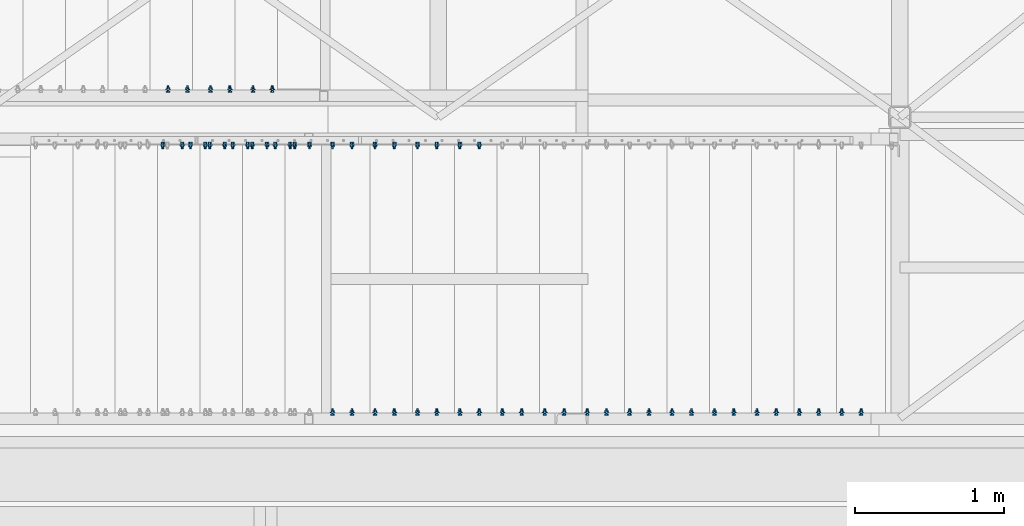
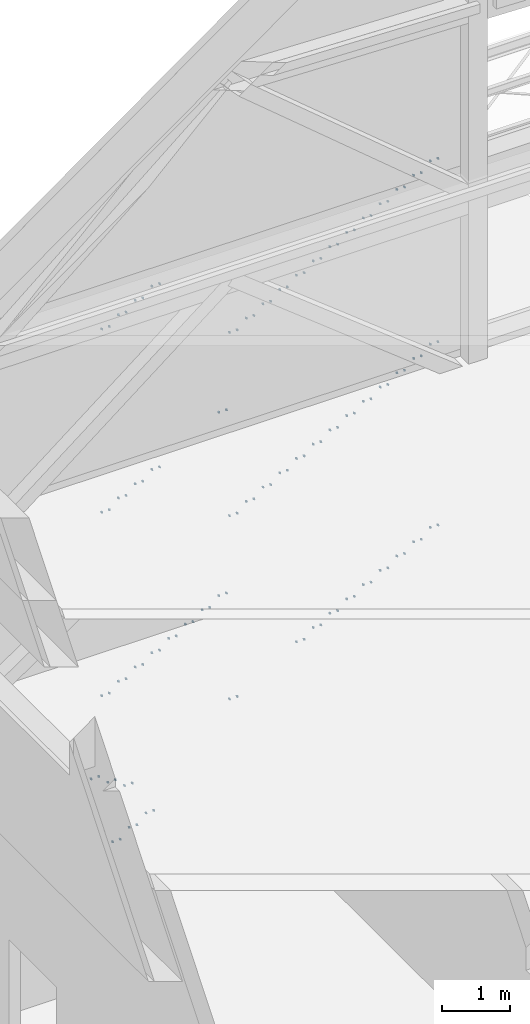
# One storey, part 75 of 78: 59 mechanical fasteners, 8 elements without a shape of their own.
"""IFC2X3 building model written with IfcOpenShell, lengths in millimetres."""

from ifc_helpers import new_model, si_unit, frame, origin_with_axes, origin_2d_with_axis, place, context, subcontext, project, spatial, polyline, circle, outline, extrude, source, transform, mapped, material, type_object, element, aggregate, save


model = new_model("IFC2X3")

# Units and contexts
model_context = context("Model", 3, precision=1e-05, world=origin_with_axes())
body_context = subcontext(model_context, "Body", "Model", "MODEL_VIEW")
ifc_project = project(units=[si_unit("LENGTHUNIT", "METRE", prefix="MILLI"), si_unit("AREAUNIT", "SQUARE_METRE"), si_unit("VOLUMEUNIT", "CUBIC_METRE"), si_unit("MASSUNIT", "GRAM", prefix="KILO"), si_unit("TIMEUNIT", "SECOND"), si_unit("PLANEANGLEUNIT", "RADIAN"), si_unit("SOLIDANGLEUNIT", "STERADIAN"), si_unit("THERMODYNAMICTEMPERATUREUNIT", "DEGREE_CELSIUS"), si_unit("LUMINOUSINTENSITYUNIT", "LUMEN")], contexts=[model_context])

# Site, building, storey
site_placement = place(None, origin_with_axes())
site = spatial("IfcSite", under=ifc_project, at=site_placement, Name="Site", CompositionType="ELEMENT")
building_placement = place(site_placement, origin_with_axes())
building = spatial("IfcBuilding", under=site, at=building_placement, Name="Undefined", CompositionType="ELEMENT")
storey_placement = place(building_placement, origin_with_axes())
storey = spatial("IfcBuildingStorey", under=building, at=storey_placement, Name="Undefined", CompositionType="ELEMENT", Elevation=0.0)

# Assembly, mechanical fasteners
assembly_1_placement = place(storey_placement, origin_with_axes())
assembly_1 = element("IfcElementAssembly", 1, at=assembly_1_placement, inside=storey, AssemblyPlace="NOTDEFINED", PredefinedType="RIGID_FRAME")
ifc_material = material(Name="6.8")
mechanical_fastener_type = type_object("IfcMechanicalFastenerType", Name="Bolt assembly")
shared_shape_1 = source(origin_with_axes(), body_context, "Body", "SweptSolid", [
    extrude(circle(Radius=6.0, at=origin_2d_with_axis()), frame((0.0, -9.00000002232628, 0.0), z_axis=(0.0, 1.0, 0.0), x_axis=(1.0, 0.0, 0.0)), (0.0, 0.0, 1.0), 9.1),
    extrude(outline(polyline([(10.96965511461, 0.0), (5.484827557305, 9.50000000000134), (-5.484827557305, 9.50000000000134), (-10.96965511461, 0.0), (-5.484827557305, -9.50000000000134), (5.484827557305, -9.50000000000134), (10.96965511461, 0.0)])), frame((0.0, -17.0000000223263, 0.0), z_axis=(0.0, 1.0, 0.0), x_axis=(1.0, 0.0, 0.0)), (0.0, 0.0, 1.0), 8.0),
    extrude(circle(Radius=6.0, at=origin_2d_with_axis()), frame((0.0, -9.00000002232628, 0.0), z_axis=(0.0, 1.0, 0.0), x_axis=(1.0, 0.0, 0.0)), (0.0, 0.0, 1.0), 35.0),
    extrude(circle(Radius=15.5, at=origin_2d_with_axis()), frame((0.0, 0.0, 0.0), z_axis=(0.0, 1.0, 0.0), x_axis=(1.0, 0.0, 0.0)), (0.0, 0.0, 1.0), 3.2),
    extrude(outline(polyline([(10.39230484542, 0.0), (5.19615242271, 9.00000000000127), (-5.19615242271, 9.00000000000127), (-10.39230484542, 0.0), (-5.19615242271, -9.00000000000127), (5.19615242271, -9.00000000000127), (10.39230484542, 0.0)])), frame((0.0, 3.20000004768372, 0.0), z_axis=(0.0, 1.0, 0.0), x_axis=(1.0, 0.0, 0.0)), (0.0, 0.0, 1.0), 10.8),
])
mechanical_fastener_1_placement = place(assembly_1_placement, frame((-2696.42999989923, 30562.9999999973, 148290.540000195), z_axis=(0.0, 0.0, -1.0), x_axis=(1.0, 0.0, 0.0)))
mechanical_fastener_1 = element("IfcMechanicalFastener", 2, at=mechanical_fastener_1_placement, type_object=mechanical_fastener_type, material=ifc_material, Name="Bolt assembly", NominalDiameter=12.0, NominalLength=35.0, context=body_context, shape_type="MappedRepresentation", body=[
    mapped(shared_shape_1, transform((0.0, 0.0, 0.0))),
    mapped(shared_shape_1, transform((130.0, 0.0, 0.0))),
])
mechanical_fastener_2_placement = place(assembly_1_placement, frame((-2981.42999990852, 30562.9999999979, 148131.040000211), z_axis=(0.0, 0.0, -1.0), x_axis=(1.0, 0.0, 0.0)))
mechanical_fastener_2 = element("IfcMechanicalFastener", 3, at=mechanical_fastener_2_placement, type_object=mechanical_fastener_type, material=ifc_material, Name="Bolt assembly", NominalDiameter=12.0, NominalLength=35.0, context=body_context, shape_type="MappedRepresentation", body=[
    mapped(shared_shape_1, transform((0.0, 0.0, 0.0))),
    mapped(shared_shape_1, transform((130.0, 0.0, 0.0))),
])
shared_shape_2 = source(origin_with_axes(), body_context, "Body", "SweptSolid", [
    extrude(circle(Radius=6.0, at=origin_2d_with_axis()), frame((0.0, -9.00000002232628, 0.0), z_axis=(0.0, 1.0, 0.0), x_axis=(1.0, 0.0, 0.0)), (0.0, 0.0, 1.0), 9.1),
    extrude(outline(polyline([(10.96965511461, 0.0), (5.484827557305, 9.50000000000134), (-5.484827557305, 9.50000000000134), (-10.96965511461, 0.0), (-5.484827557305, -9.50000000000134), (5.484827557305, -9.50000000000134), (10.96965511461, 0.0)])), frame((0.0, -17.0000000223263, 0.0), z_axis=(0.0, 1.0, 0.0), x_axis=(1.0, 0.0, 0.0)), (0.0, 0.0, 1.0), 8.0),
    extrude(circle(Radius=6.0, at=origin_2d_with_axis()), frame((0.0, -9.00000002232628, 0.0), z_axis=(0.0, 1.0, 0.0), x_axis=(1.0, 0.0, 0.0)), (0.0, 0.0, 1.0), 35.0),
    extrude(circle(Radius=15.5, at=origin_2d_with_axis()), frame((0.0, 0.0, 0.0), z_axis=(0.0, 1.0, 0.0), x_axis=(1.0, 0.0, 0.0)), (0.0, 0.0, 1.0), 3.2),
    extrude(outline(polyline([(10.39230484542, 0.0), (5.19615242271, 9.00000000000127), (-5.19615242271, 9.00000000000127), (-10.39230484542, 0.0), (-5.19615242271, -9.00000000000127), (5.19615242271, -9.00000000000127), (10.39230484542, 0.0)])), frame((0.0, 3.20000004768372, 0.0), z_axis=(0.0, 1.0, 0.0), x_axis=(1.0, 0.0, 0.0)), (0.0, 0.0, 1.0), 10.8),
])
mechanical_fastener_3_placement = place(assembly_1_placement, frame((-3266.4299999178, 30562.9999999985, 147971.540000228), z_axis=(0.0, 0.0, -1.0), x_axis=(1.0, 0.0, 0.0)))
mechanical_fastener_3 = element("IfcMechanicalFastener", 4, at=mechanical_fastener_3_placement, type_object=mechanical_fastener_type, material=ifc_material, Name="Bolt assembly", NominalDiameter=12.0, NominalLength=35.0, context=body_context, shape_type="MappedRepresentation", body=[
    mapped(shared_shape_2, transform((0.0, 0.0, 0.0))),
    mapped(shared_shape_2, transform((130.0, 0.0, 0.0))),
])
aggregate(assembly_1, [mechanical_fastener_1, mechanical_fastener_2, mechanical_fastener_3])

assembly_2_placement = place(storey_placement, origin_with_axes())
assembly_2 = element("IfcElementAssembly", 5, at=assembly_2_placement, inside=storey, AssemblyPlace="NOTDEFINED", PredefinedType="RIGID_FRAME")
mechanical_fastener_4_placement = place(assembly_2_placement, frame((1108.57000005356, 28763.0000000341, 153187.539999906), z_axis=(0.0, 0.0, 1.0), x_axis=(1.0, 0.0, 0.0)))
mechanical_fastener_4 = element("IfcMechanicalFastener", 6, at=mechanical_fastener_4_placement, type_object=mechanical_fastener_type, material=ifc_material, Name="Bolt assembly", NominalDiameter=12.0, NominalLength=35.0, context=body_context, shape_type="MappedRepresentation", body=[
    mapped(shared_shape_2, transform((0.0, 0.0, 0.0))),
    mapped(shared_shape_2, transform((130.0, 0.0, 0.0))),
])
mechanical_fastener_5_placement = place(assembly_2_placement, frame((823.570000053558, 28763.0000000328, 153030.039999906), z_axis=(0.0, 0.0, 1.0), x_axis=(1.0, 0.0, 0.0)))
mechanical_fastener_5 = element("IfcMechanicalFastener", 7, at=mechanical_fastener_5_placement, type_object=mechanical_fastener_type, material=ifc_material, Name="Bolt assembly", NominalDiameter=12.0, NominalLength=35.0, context=body_context, shape_type="MappedRepresentation", body=[
    mapped(shared_shape_2, transform((0.0, 0.0, 0.0))),
    mapped(shared_shape_2, transform((130.0, 0.0, 0.0))),
])
mechanical_fastener_6_placement = place(assembly_2_placement, frame((538.570000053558, 28763.0000000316, 152872.539999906), z_axis=(0.0, 0.0, 1.0), x_axis=(1.0, 0.0, 0.0)))
mechanical_fastener_6 = element("IfcMechanicalFastener", 8, at=mechanical_fastener_6_placement, type_object=mechanical_fastener_type, material=ifc_material, Name="Bolt assembly", NominalDiameter=12.0, NominalLength=35.0, context=body_context, shape_type="MappedRepresentation", body=[
    mapped(shared_shape_2, transform((0.0, 0.0, 0.0))),
    mapped(shared_shape_2, transform((130.0, 0.0, 0.0))),
])
mechanical_fastener_7_placement = place(assembly_2_placement, frame((253.570000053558, 28763.0000000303, 152715.039999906), z_axis=(0.0, 0.0, 1.0), x_axis=(1.0, 0.0, 0.0)))
mechanical_fastener_7 = element("IfcMechanicalFastener", 9, at=mechanical_fastener_7_placement, type_object=mechanical_fastener_type, material=ifc_material, Name="Bolt assembly", NominalDiameter=12.0, NominalLength=35.0, context=body_context, shape_type="MappedRepresentation", body=[
    mapped(shared_shape_2, transform((0.0, 0.0, 0.0))),
    mapped(shared_shape_2, transform((130.0, 0.0, 0.0))),
])
mechanical_fastener_8_placement = place(assembly_2_placement, frame((-31.429999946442, 28763.0000000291, 152557.539999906), z_axis=(0.0, 0.0, 1.0), x_axis=(1.0, 0.0, 0.0)))
mechanical_fastener_8 = element("IfcMechanicalFastener", 10, at=mechanical_fastener_8_placement, type_object=mechanical_fastener_type, material=ifc_material, Name="Bolt assembly", NominalDiameter=12.0, NominalLength=35.0, context=body_context, shape_type="MappedRepresentation", body=[
    mapped(shared_shape_2, transform((0.0, 0.0, 0.0))),
    mapped(shared_shape_2, transform((130.0, 0.0, 0.0))),
])
mechanical_fastener_9_placement = place(assembly_2_placement, frame((-316.429999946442, 28763.0000000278, 152400.039999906), z_axis=(0.0, 0.0, 1.0), x_axis=(1.0, 0.0, 0.0)))
mechanical_fastener_9 = element("IfcMechanicalFastener", 11, at=mechanical_fastener_9_placement, type_object=mechanical_fastener_type, material=ifc_material, Name="Bolt assembly", NominalDiameter=12.0, NominalLength=35.0, context=body_context, shape_type="MappedRepresentation", body=[
    mapped(shared_shape_2, transform((0.0, 0.0, 0.0))),
    mapped(shared_shape_2, transform((130.0, 0.0, 0.0))),
])
mechanical_fastener_10_placement = place(assembly_2_placement, frame((-601.429999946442, 28763.0000000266, 152242.539999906), z_axis=(0.0, 0.0, 1.0), x_axis=(1.0, 0.0, 0.0)))
mechanical_fastener_10 = element("IfcMechanicalFastener", 12, at=mechanical_fastener_10_placement, type_object=mechanical_fastener_type, material=ifc_material, Name="Bolt assembly", NominalDiameter=12.0, NominalLength=35.0, context=body_context, shape_type="MappedRepresentation", body=[
    mapped(shared_shape_2, transform((0.0, 0.0, 0.0))),
    mapped(shared_shape_2, transform((130.0, 0.0, 0.0))),
])
mechanical_fastener_11_placement = place(assembly_2_placement, frame((-886.429999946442, 28763.0000000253, 152085.039999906), z_axis=(0.0, 0.0, 1.0), x_axis=(1.0, 0.0, 0.0)))
mechanical_fastener_11 = element("IfcMechanicalFastener", 13, at=mechanical_fastener_11_placement, type_object=mechanical_fastener_type, material=ifc_material, Name="Bolt assembly", NominalDiameter=12.0, NominalLength=35.0, context=body_context, shape_type="MappedRepresentation", body=[
    mapped(shared_shape_2, transform((0.0, 0.0, 0.0))),
    mapped(shared_shape_2, transform((130.0, 0.0, 0.0))),
])
mechanical_fastener_12_placement = place(assembly_2_placement, frame((-1171.42999994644, 28763.0000000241, 151927.539999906), z_axis=(0.0, 0.0, 1.0), x_axis=(1.0, 0.0, 0.0)))
mechanical_fastener_12 = element("IfcMechanicalFastener", 14, at=mechanical_fastener_12_placement, type_object=mechanical_fastener_type, material=ifc_material, Name="Bolt assembly", NominalDiameter=12.0, NominalLength=35.0, context=body_context, shape_type="MappedRepresentation", body=[
    mapped(shared_shape_2, transform((0.0, 0.0, 0.0))),
    mapped(shared_shape_2, transform((130.0, 0.0, 0.0))),
])

assembly_3_placement = place(storey_placement, origin_with_axes())
assembly_3 = element("IfcElementAssembly", 15, at=assembly_3_placement, inside=storey, AssemblyPlace="NOTDEFINED", PredefinedType="RIGID_FRAME")
mechanical_fastener_13_placement = place(assembly_3_placement, frame((-1456.42999993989, 30563.0000000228, 151770.039999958), z_axis=(0.0, 0.0, -1.0), x_axis=(1.0, 0.0, 0.0)))
mechanical_fastener_13 = element("IfcMechanicalFastener", 16, at=mechanical_fastener_13_placement, type_object=mechanical_fastener_type, material=ifc_material, Name="Bolt assembly", NominalDiameter=12.0, NominalLength=35.0, context=body_context, shape_type="MappedRepresentation", body=[
    mapped(shared_shape_2, transform((0.0, 0.0, 0.0))),
    mapped(shared_shape_2, transform((130.0, 0.0, 0.0))),
])
mechanical_fastener_14_placement = place(assembly_3_placement, frame((-1741.42999993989, 30563.0000000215, 151612.539999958), z_axis=(0.0, 0.0, -1.0), x_axis=(1.0, 0.0, 0.0)))
mechanical_fastener_14 = element("IfcMechanicalFastener", 17, at=mechanical_fastener_14_placement, type_object=mechanical_fastener_type, material=ifc_material, Name="Bolt assembly", NominalDiameter=12.0, NominalLength=35.0, context=body_context, shape_type="MappedRepresentation", body=[
    mapped(shared_shape_2, transform((0.0, 0.0, 0.0))),
    mapped(shared_shape_2, transform((130.0, 0.0, 0.0))),
])
mechanical_fastener_15_placement = place(assembly_3_placement, frame((-2026.42999993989, 30563.0000000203, 151455.039999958), z_axis=(0.0, 0.0, -1.0), x_axis=(1.0, 0.0, 0.0)))
mechanical_fastener_15 = element("IfcMechanicalFastener", 18, at=mechanical_fastener_15_placement, type_object=mechanical_fastener_type, material=ifc_material, Name="Bolt assembly", NominalDiameter=12.0, NominalLength=35.0, context=body_context, shape_type="MappedRepresentation", body=[
    mapped(shared_shape_2, transform((0.0, 0.0, 0.0))),
    mapped(shared_shape_2, transform((130.0, 0.0, 0.0))),
])
mechanical_fastener_16_placement = place(assembly_3_placement, frame((-2311.42999993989, 30563.000000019, 151297.539999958), z_axis=(0.0, 0.0, -1.0), x_axis=(1.0, 0.0, 0.0)))
mechanical_fastener_16 = element("IfcMechanicalFastener", 19, at=mechanical_fastener_16_placement, type_object=mechanical_fastener_type, material=ifc_material, Name="Bolt assembly", NominalDiameter=12.0, NominalLength=35.0, context=body_context, shape_type="MappedRepresentation", body=[
    mapped(shared_shape_2, transform((0.0, 0.0, 0.0))),
    mapped(shared_shape_2, transform((130.0, 0.0, 0.0))),
])

# Mechanical fastener
mechanical_fastener_17_placement = place(assembly_2_placement, frame((-2311.42999994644, 28763.000000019, 151297.539999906), z_axis=(0.0, 0.0, 1.0), x_axis=(1.0, 0.0, 0.0)))
mechanical_fastener_17 = element("IfcMechanicalFastener", 20, at=mechanical_fastener_17_placement, type_object=mechanical_fastener_type, material=ifc_material, Name="Bolt assembly", NominalDiameter=12.0, NominalLength=35.0, context=body_context, shape_type="MappedRepresentation", body=[
    mapped(shared_shape_2, transform((0.0, 0.0, 0.0))),
    mapped(shared_shape_2, transform((130.0, 0.0, 0.0))),
])

aggregate(assembly_2, [mechanical_fastener_4, mechanical_fastener_5, mechanical_fastener_6, mechanical_fastener_7, mechanical_fastener_8, mechanical_fastener_9, mechanical_fastener_10, mechanical_fastener_11, mechanical_fastener_12, mechanical_fastener_17])

mechanical_fastener_18_placement = place(assembly_3_placement, frame((-2596.42999993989, 30563.0000000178, 151140.039999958), z_axis=(0.0, 0.0, -1.0), x_axis=(1.0, 0.0, 0.0)))
mechanical_fastener_18 = element("IfcMechanicalFastener", 21, at=mechanical_fastener_18_placement, type_object=mechanical_fastener_type, material=ifc_material, Name="Bolt assembly", NominalDiameter=12.0, NominalLength=35.0, context=body_context, shape_type="MappedRepresentation", body=[
    mapped(shared_shape_2, transform((0.0, 0.0, 0.0))),
    mapped(shared_shape_2, transform((130.0, 0.0, 0.0))),
])

mechanical_fastener_19_placement = place(assembly_3_placement, frame((-2881.42999993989, 30563.0000000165, 150982.539999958), z_axis=(0.0, 0.0, -1.0), x_axis=(1.0, 0.0, 0.0)))
mechanical_fastener_19 = element("IfcMechanicalFastener", 22, at=mechanical_fastener_19_placement, type_object=mechanical_fastener_type, material=ifc_material, Name="Bolt assembly", NominalDiameter=12.0, NominalLength=35.0, context=body_context, shape_type="MappedRepresentation", body=[
    mapped(shared_shape_2, transform((0.0, 0.0, 0.0))),
    mapped(shared_shape_2, transform((130.0, 0.0, 0.0))),
])

mechanical_fastener_20_placement = place(assembly_3_placement, frame((-3166.42999993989, 30563.0000000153, 150825.039999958), z_axis=(0.0, 0.0, -1.0), x_axis=(1.0, 0.0, 0.0)))
mechanical_fastener_20 = element("IfcMechanicalFastener", 23, at=mechanical_fastener_20_placement, type_object=mechanical_fastener_type, material=ifc_material, Name="Bolt assembly", NominalDiameter=12.0, NominalLength=35.0, context=body_context, shape_type="MappedRepresentation", body=[
    mapped(shared_shape_2, transform((0.0, 0.0, 0.0))),
    mapped(shared_shape_2, transform((130.0, 0.0, 0.0))),
])

mechanical_fastener_21_placement = place(assembly_3_placement, frame((-3451.42999993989, 30563.000000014, 150667.539999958), z_axis=(0.0, 0.0, -1.0), x_axis=(1.0, 0.0, 0.0)))
mechanical_fastener_21 = element("IfcMechanicalFastener", 24, at=mechanical_fastener_21_placement, type_object=mechanical_fastener_type, material=ifc_material, Name="Bolt assembly", NominalDiameter=12.0, NominalLength=35.0, context=body_context, shape_type="MappedRepresentation", body=[
    mapped(shared_shape_2, transform((0.0, 0.0, 0.0))),
    mapped(shared_shape_2, transform((130.0, 0.0, 0.0))),
])

aggregate(assembly_3, [mechanical_fastener_13, mechanical_fastener_14, mechanical_fastener_15, mechanical_fastener_16, mechanical_fastener_18, mechanical_fastener_19, mechanical_fastener_20, mechanical_fastener_21])

# Assembly, mechanical fasteners
assembly_4_placement = place(storey_placement, origin_with_axes())
assembly_4 = element("IfcElementAssembly", 25, at=assembly_4_placement, inside=storey, AssemblyPlace="NOTDEFINED", PredefinedType="RIGID_FRAME")
mechanical_fastener_22_placement = place(assembly_4_placement, frame((-3286.43000008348, 30932.9999999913, 148928.540000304), z_axis=(0.0, 0.0, -1.0), x_axis=(-1.0, 0.0, 0.0)))
mechanical_fastener_22 = element("IfcMechanicalFastener", 26, at=mechanical_fastener_22_placement, type_object=mechanical_fastener_type, material=ifc_material, Name="Bolt assembly", NominalDiameter=12.0, NominalLength=35.0, context=body_context, shape_type="MappedRepresentation", body=[
    mapped(shared_shape_2, transform((0.0, 0.0, 0.0))),
    mapped(shared_shape_2, transform((130.0, 0.0, 0.0))),
])
mechanical_fastener_23_placement = place(assembly_4_placement, frame((-3001.43000007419, 30932.9999999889, 148769.040000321), z_axis=(0.0, 0.0, -1.0), x_axis=(-1.0, 0.0, 0.0)))
mechanical_fastener_23 = element("IfcMechanicalFastener", 27, at=mechanical_fastener_23_placement, type_object=mechanical_fastener_type, material=ifc_material, Name="Bolt assembly", NominalDiameter=12.0, NominalLength=35.0, context=body_context, shape_type="MappedRepresentation", body=[
    mapped(shared_shape_2, transform((0.0, 0.0, 0.0))),
    mapped(shared_shape_2, transform((130.0, 0.0, 0.0))),
])
mechanical_fastener_24_placement = place(assembly_4_placement, frame((-2716.43000006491, 30932.9999999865, 148609.540000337), z_axis=(0.0, 0.0, -1.0), x_axis=(-1.0, 0.0, 0.0)))
mechanical_fastener_24 = element("IfcMechanicalFastener", 28, at=mechanical_fastener_24_placement, type_object=mechanical_fastener_type, material=ifc_material, Name="Bolt assembly", NominalDiameter=12.0, NominalLength=35.0, context=body_context, shape_type="MappedRepresentation", body=[
    mapped(shared_shape_2, transform((0.0, 0.0, 0.0))),
    mapped(shared_shape_2, transform((130.0, 0.0, 0.0))),
])
aggregate(assembly_4, [mechanical_fastener_22, mechanical_fastener_23, mechanical_fastener_24])

assembly_5_placement = place(storey_placement, origin_with_axes())
assembly_5 = element("IfcElementAssembly", 29, at=assembly_5_placement, inside=storey, AssemblyPlace="NOTDEFINED", PredefinedType="RIGID_FRAME")
mechanical_fastener_25_placement = place(assembly_5_placement, frame((1108.57000005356, 28763.0000000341, 156487.539999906), z_axis=(0.0, 0.0, 1.0), x_axis=(1.0, 0.0, 0.0)))
mechanical_fastener_25 = element("IfcMechanicalFastener", 30, at=mechanical_fastener_25_placement, type_object=mechanical_fastener_type, material=ifc_material, Name="Bolt assembly", NominalDiameter=12.0, NominalLength=35.0, context=body_context, shape_type="MappedRepresentation", body=[
    mapped(shared_shape_2, transform((0.0, 0.0, 0.0))),
    mapped(shared_shape_2, transform((130.0, 0.0, 0.0))),
])
mechanical_fastener_26_placement = place(assembly_5_placement, frame((823.570000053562, 28763.0000000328, 156330.039999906), z_axis=(0.0, 0.0, 1.0), x_axis=(1.0, 0.0, 0.0)))
mechanical_fastener_26 = element("IfcMechanicalFastener", 31, at=mechanical_fastener_26_placement, type_object=mechanical_fastener_type, material=ifc_material, Name="Bolt assembly", NominalDiameter=12.0, NominalLength=35.0, context=body_context, shape_type="MappedRepresentation", body=[
    mapped(shared_shape_2, transform((0.0, 0.0, 0.0))),
    mapped(shared_shape_2, transform((130.0, 0.0, 0.0))),
])
mechanical_fastener_27_placement = place(assembly_5_placement, frame((538.570000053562, 28763.0000000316, 156172.539999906), z_axis=(0.0, 0.0, 1.0), x_axis=(1.0, 0.0, 0.0)))
mechanical_fastener_27 = element("IfcMechanicalFastener", 32, at=mechanical_fastener_27_placement, type_object=mechanical_fastener_type, material=ifc_material, Name="Bolt assembly", NominalDiameter=12.0, NominalLength=35.0, context=body_context, shape_type="MappedRepresentation", body=[
    mapped(shared_shape_2, transform((0.0, 0.0, 0.0))),
    mapped(shared_shape_2, transform((130.0, 0.0, 0.0))),
])
mechanical_fastener_28_placement = place(assembly_5_placement, frame((253.570000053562, 28763.0000000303, 156015.039999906), z_axis=(0.0, 0.0, 1.0), x_axis=(1.0, 0.0, 0.0)))
mechanical_fastener_28 = element("IfcMechanicalFastener", 33, at=mechanical_fastener_28_placement, type_object=mechanical_fastener_type, material=ifc_material, Name="Bolt assembly", NominalDiameter=12.0, NominalLength=35.0, context=body_context, shape_type="MappedRepresentation", body=[
    mapped(shared_shape_2, transform((0.0, 0.0, 0.0))),
    mapped(shared_shape_2, transform((130.0, 0.0, 0.0))),
])
mechanical_fastener_29_placement = place(assembly_5_placement, frame((-31.4299999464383, 28763.0000000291, 155857.539999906), z_axis=(0.0, 0.0, 1.0), x_axis=(1.0, 0.0, 0.0)))
mechanical_fastener_29 = element("IfcMechanicalFastener", 34, at=mechanical_fastener_29_placement, type_object=mechanical_fastener_type, material=ifc_material, Name="Bolt assembly", NominalDiameter=12.0, NominalLength=35.0, context=body_context, shape_type="MappedRepresentation", body=[
    mapped(shared_shape_2, transform((0.0, 0.0, 0.0))),
    mapped(shared_shape_2, transform((130.0, 0.0, 0.0))),
])
mechanical_fastener_30_placement = place(assembly_5_placement, frame((-316.429999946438, 28763.0000000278, 155700.039999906), z_axis=(0.0, 0.0, 1.0), x_axis=(1.0, 0.0, 0.0)))
mechanical_fastener_30 = element("IfcMechanicalFastener", 35, at=mechanical_fastener_30_placement, type_object=mechanical_fastener_type, material=ifc_material, Name="Bolt assembly", NominalDiameter=12.0, NominalLength=35.0, context=body_context, shape_type="MappedRepresentation", body=[
    mapped(shared_shape_2, transform((0.0, 0.0, 0.0))),
    mapped(shared_shape_2, transform((130.0, 0.0, 0.0))),
])
mechanical_fastener_31_placement = place(assembly_5_placement, frame((-601.429999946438, 28763.0000000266, 155542.539999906), z_axis=(0.0, 0.0, 1.0), x_axis=(1.0, 0.0, 0.0)))
mechanical_fastener_31 = element("IfcMechanicalFastener", 36, at=mechanical_fastener_31_placement, type_object=mechanical_fastener_type, material=ifc_material, Name="Bolt assembly", NominalDiameter=12.0, NominalLength=35.0, context=body_context, shape_type="MappedRepresentation", body=[
    mapped(shared_shape_2, transform((0.0, 0.0, 0.0))),
    mapped(shared_shape_2, transform((130.0, 0.0, 0.0))),
])
mechanical_fastener_32_placement = place(assembly_5_placement, frame((-886.429999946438, 28763.0000000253, 155385.039999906), z_axis=(0.0, 0.0, 1.0), x_axis=(1.0, 0.0, 0.0)))
mechanical_fastener_32 = element("IfcMechanicalFastener", 37, at=mechanical_fastener_32_placement, type_object=mechanical_fastener_type, material=ifc_material, Name="Bolt assembly", NominalDiameter=12.0, NominalLength=35.0, context=body_context, shape_type="MappedRepresentation", body=[
    mapped(shared_shape_2, transform((0.0, 0.0, 0.0))),
    mapped(shared_shape_2, transform((130.0, 0.0, 0.0))),
])
mechanical_fastener_33_placement = place(assembly_5_placement, frame((-1171.42999994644, 28763.0000000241, 155227.539999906), z_axis=(0.0, 0.0, 1.0), x_axis=(1.0, 0.0, 0.0)))
mechanical_fastener_33 = element("IfcMechanicalFastener", 38, at=mechanical_fastener_33_placement, type_object=mechanical_fastener_type, material=ifc_material, Name="Bolt assembly", NominalDiameter=12.0, NominalLength=35.0, context=body_context, shape_type="MappedRepresentation", body=[
    mapped(shared_shape_2, transform((0.0, 0.0, 0.0))),
    mapped(shared_shape_2, transform((130.0, 0.0, 0.0))),
])

# Assembly, mechanical fastener
assembly_6_placement = place(storey_placement, origin_with_axes())
assembly_6 = element("IfcElementAssembly", 39, at=assembly_6_placement, inside=storey, AssemblyPlace="NOTDEFINED", PredefinedType="RIGID_FRAME")
mechanical_fastener_34_placement = place(assembly_6_placement, frame((-1456.42999993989, 30563.0000000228, 155070.039999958), z_axis=(0.0, 0.0, -1.0), x_axis=(1.0, 0.0, 0.0)))
mechanical_fastener_34 = element("IfcMechanicalFastener", 40, at=mechanical_fastener_34_placement, type_object=mechanical_fastener_type, material=ifc_material, Name="Bolt assembly", NominalDiameter=12.0, NominalLength=35.0, context=body_context, shape_type="MappedRepresentation", body=[
    mapped(shared_shape_2, transform((0.0, 0.0, 0.0))),
    mapped(shared_shape_2, transform((130.0, 0.0, 0.0))),
])

# Mechanical fastener
mechanical_fastener_35_placement = place(assembly_5_placement, frame((-1456.42999994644, 28763.0000000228, 155070.039999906), z_axis=(0.0, 0.0, 1.0), x_axis=(1.0, 0.0, 0.0)))
mechanical_fastener_35 = element("IfcMechanicalFastener", 41, at=mechanical_fastener_35_placement, type_object=mechanical_fastener_type, material=ifc_material, Name="Bolt assembly", NominalDiameter=12.0, NominalLength=35.0, context=body_context, shape_type="MappedRepresentation", body=[
    mapped(shared_shape_2, transform((0.0, 0.0, 0.0))),
    mapped(shared_shape_2, transform((130.0, 0.0, 0.0))),
])

mechanical_fastener_36_placement = place(assembly_5_placement, frame((-1741.42999994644, 28763.0000000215, 154912.539999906), z_axis=(0.0, 0.0, 1.0), x_axis=(1.0, 0.0, 0.0)))
mechanical_fastener_36 = element("IfcMechanicalFastener", 42, at=mechanical_fastener_36_placement, type_object=mechanical_fastener_type, material=ifc_material, Name="Bolt assembly", NominalDiameter=12.0, NominalLength=35.0, context=body_context, shape_type="MappedRepresentation", body=[
    mapped(shared_shape_2, transform((0.0, 0.0, 0.0))),
    mapped(shared_shape_2, transform((130.0, 0.0, 0.0))),
])

mechanical_fastener_37_placement = place(assembly_5_placement, frame((-2026.42999994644, 28763.0000000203, 154755.039999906), z_axis=(0.0, 0.0, 1.0), x_axis=(1.0, 0.0, 0.0)))
mechanical_fastener_37 = element("IfcMechanicalFastener", 43, at=mechanical_fastener_37_placement, type_object=mechanical_fastener_type, material=ifc_material, Name="Bolt assembly", NominalDiameter=12.0, NominalLength=35.0, context=body_context, shape_type="MappedRepresentation", body=[
    mapped(shared_shape_2, transform((0.0, 0.0, 0.0))),
    mapped(shared_shape_2, transform((130.0, 0.0, 0.0))),
])

mechanical_fastener_38_placement = place(assembly_5_placement, frame((-2311.42999994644, 28763.000000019, 154597.539999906), z_axis=(0.0, 0.0, 1.0), x_axis=(1.0, 0.0, 0.0)))
mechanical_fastener_38 = element("IfcMechanicalFastener", 44, at=mechanical_fastener_38_placement, type_object=mechanical_fastener_type, material=ifc_material, Name="Bolt assembly", NominalDiameter=12.0, NominalLength=35.0, context=body_context, shape_type="MappedRepresentation", body=[
    mapped(shared_shape_2, transform((0.0, 0.0, 0.0))),
    mapped(shared_shape_2, transform((130.0, 0.0, 0.0))),
])

aggregate(assembly_5, [mechanical_fastener_25, mechanical_fastener_26, mechanical_fastener_27, mechanical_fastener_28, mechanical_fastener_29, mechanical_fastener_30, mechanical_fastener_31, mechanical_fastener_32, mechanical_fastener_33, mechanical_fastener_35, mechanical_fastener_36, mechanical_fastener_37, mechanical_fastener_38])

mechanical_fastener_39_placement = place(assembly_6_placement, frame((-2596.42999993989, 30563.0000000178, 154440.039999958), z_axis=(0.0, 0.0, -1.0), x_axis=(1.0, 0.0, 0.0)))
mechanical_fastener_39 = element("IfcMechanicalFastener", 45, at=mechanical_fastener_39_placement, type_object=mechanical_fastener_type, material=ifc_material, Name="Bolt assembly", NominalDiameter=12.0, NominalLength=35.0, context=body_context, shape_type="MappedRepresentation", body=[
    mapped(shared_shape_2, transform((0.0, 0.0, 0.0))),
    mapped(shared_shape_2, transform((130.0, 0.0, 0.0))),
])

mechanical_fastener_40_placement = place(assembly_6_placement, frame((-2881.42999993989, 30563.0000000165, 154282.539999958), z_axis=(0.0, 0.0, -1.0), x_axis=(1.0, 0.0, 0.0)))
mechanical_fastener_40 = element("IfcMechanicalFastener", 46, at=mechanical_fastener_40_placement, type_object=mechanical_fastener_type, material=ifc_material, Name="Bolt assembly", NominalDiameter=12.0, NominalLength=35.0, context=body_context, shape_type="MappedRepresentation", body=[
    mapped(shared_shape_2, transform((0.0, 0.0, 0.0))),
    mapped(shared_shape_2, transform((130.0, 0.0, 0.0))),
])

mechanical_fastener_41_placement = place(assembly_6_placement, frame((-3166.42999993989, 30563.0000000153, 154125.039999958), z_axis=(0.0, 0.0, -1.0), x_axis=(1.0, 0.0, 0.0)))
mechanical_fastener_41 = element("IfcMechanicalFastener", 47, at=mechanical_fastener_41_placement, type_object=mechanical_fastener_type, material=ifc_material, Name="Bolt assembly", NominalDiameter=12.0, NominalLength=35.0, context=body_context, shape_type="MappedRepresentation", body=[
    mapped(shared_shape_2, transform((0.0, 0.0, 0.0))),
    mapped(shared_shape_2, transform((130.0, 0.0, 0.0))),
])

mechanical_fastener_42_placement = place(assembly_6_placement, frame((-3451.42999993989, 30563.000000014, 153967.539999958), z_axis=(0.0, 0.0, -1.0), x_axis=(1.0, 0.0, 0.0)))
mechanical_fastener_42 = element("IfcMechanicalFastener", 48, at=mechanical_fastener_42_placement, type_object=mechanical_fastener_type, material=ifc_material, Name="Bolt assembly", NominalDiameter=12.0, NominalLength=35.0, context=body_context, shape_type="MappedRepresentation", body=[
    mapped(shared_shape_2, transform((0.0, 0.0, 0.0))),
    mapped(shared_shape_2, transform((130.0, 0.0, 0.0))),
])

aggregate(assembly_6, [mechanical_fastener_34, mechanical_fastener_39, mechanical_fastener_40, mechanical_fastener_41, mechanical_fastener_42])

# Assembly, mechanical fasteners
assembly_7_placement = place(storey_placement, origin_with_axes())
assembly_7 = element("IfcElementAssembly", 49, at=assembly_7_placement, inside=storey, AssemblyPlace="NOTDEFINED", PredefinedType="RIGID_FRAME")
mechanical_fastener_43_placement = place(assembly_7_placement, frame((1108.57000005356, 28763.0000000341, 159787.539999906), z_axis=(0.0, 0.0, 1.0), x_axis=(1.0, 0.0, 0.0)))
mechanical_fastener_43 = element("IfcMechanicalFastener", 50, at=mechanical_fastener_43_placement, type_object=mechanical_fastener_type, material=ifc_material, Name="Bolt assembly", NominalDiameter=12.0, NominalLength=35.0, context=body_context, shape_type="MappedRepresentation", body=[
    mapped(shared_shape_2, transform((0.0, 0.0, 0.0))),
    mapped(shared_shape_2, transform((130.0, 0.0, 0.0))),
])
mechanical_fastener_44_placement = place(assembly_7_placement, frame((823.570000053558, 28763.0000000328, 159630.039999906), z_axis=(0.0, 0.0, 1.0), x_axis=(1.0, 0.0, 0.0)))
mechanical_fastener_44 = element("IfcMechanicalFastener", 51, at=mechanical_fastener_44_placement, type_object=mechanical_fastener_type, material=ifc_material, Name="Bolt assembly", NominalDiameter=12.0, NominalLength=35.0, context=body_context, shape_type="MappedRepresentation", body=[
    mapped(shared_shape_2, transform((0.0, 0.0, 0.0))),
    mapped(shared_shape_2, transform((130.0, 0.0, 0.0))),
])
mechanical_fastener_45_placement = place(assembly_7_placement, frame((538.570000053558, 28763.0000000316, 159472.539999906), z_axis=(0.0, 0.0, 1.0), x_axis=(1.0, 0.0, 0.0)))
mechanical_fastener_45 = element("IfcMechanicalFastener", 52, at=mechanical_fastener_45_placement, type_object=mechanical_fastener_type, material=ifc_material, Name="Bolt assembly", NominalDiameter=12.0, NominalLength=35.0, context=body_context, shape_type="MappedRepresentation", body=[
    mapped(shared_shape_2, transform((0.0, 0.0, 0.0))),
    mapped(shared_shape_2, transform((130.0, 0.0, 0.0))),
])
mechanical_fastener_46_placement = place(assembly_7_placement, frame((253.570000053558, 28763.0000000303, 159315.039999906), z_axis=(0.0, 0.0, 1.0), x_axis=(1.0, 0.0, 0.0)))
mechanical_fastener_46 = element("IfcMechanicalFastener", 53, at=mechanical_fastener_46_placement, type_object=mechanical_fastener_type, material=ifc_material, Name="Bolt assembly", NominalDiameter=12.0, NominalLength=35.0, context=body_context, shape_type="MappedRepresentation", body=[
    mapped(shared_shape_2, transform((0.0, 0.0, 0.0))),
    mapped(shared_shape_2, transform((130.0, 0.0, 0.0))),
])
mechanical_fastener_47_placement = place(assembly_7_placement, frame((-31.429999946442, 28763.0000000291, 159157.539999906), z_axis=(0.0, 0.0, 1.0), x_axis=(1.0, 0.0, 0.0)))
mechanical_fastener_47 = element("IfcMechanicalFastener", 54, at=mechanical_fastener_47_placement, type_object=mechanical_fastener_type, material=ifc_material, Name="Bolt assembly", NominalDiameter=12.0, NominalLength=35.0, context=body_context, shape_type="MappedRepresentation", body=[
    mapped(shared_shape_2, transform((0.0, 0.0, 0.0))),
    mapped(shared_shape_2, transform((130.0, 0.0, 0.0))),
])
mechanical_fastener_48_placement = place(assembly_7_placement, frame((-316.429999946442, 28763.0000000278, 159000.039999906), z_axis=(0.0, 0.0, 1.0), x_axis=(1.0, 0.0, 0.0)))
mechanical_fastener_48 = element("IfcMechanicalFastener", 55, at=mechanical_fastener_48_placement, type_object=mechanical_fastener_type, material=ifc_material, Name="Bolt assembly", NominalDiameter=12.0, NominalLength=35.0, context=body_context, shape_type="MappedRepresentation", body=[
    mapped(shared_shape_2, transform((0.0, 0.0, 0.0))),
    mapped(shared_shape_2, transform((130.0, 0.0, 0.0))),
])
mechanical_fastener_49_placement = place(assembly_7_placement, frame((-601.429999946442, 28763.0000000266, 158842.539999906), z_axis=(0.0, 0.0, 1.0), x_axis=(1.0, 0.0, 0.0)))
mechanical_fastener_49 = element("IfcMechanicalFastener", 56, at=mechanical_fastener_49_placement, type_object=mechanical_fastener_type, material=ifc_material, Name="Bolt assembly", NominalDiameter=12.0, NominalLength=35.0, context=body_context, shape_type="MappedRepresentation", body=[
    mapped(shared_shape_2, transform((0.0, 0.0, 0.0))),
    mapped(shared_shape_2, transform((130.0, 0.0, 0.0))),
])
mechanical_fastener_50_placement = place(assembly_7_placement, frame((-886.429999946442, 28763.0000000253, 158685.039999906), z_axis=(0.0, 0.0, 1.0), x_axis=(1.0, 0.0, 0.0)))
mechanical_fastener_50 = element("IfcMechanicalFastener", 57, at=mechanical_fastener_50_placement, type_object=mechanical_fastener_type, material=ifc_material, Name="Bolt assembly", NominalDiameter=12.0, NominalLength=35.0, context=body_context, shape_type="MappedRepresentation", body=[
    mapped(shared_shape_2, transform((0.0, 0.0, 0.0))),
    mapped(shared_shape_2, transform((130.0, 0.0, 0.0))),
])
mechanical_fastener_51_placement = place(assembly_7_placement, frame((-1171.42999994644, 28763.0000000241, 158527.539999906), z_axis=(0.0, 0.0, 1.0), x_axis=(1.0, 0.0, 0.0)))
mechanical_fastener_51 = element("IfcMechanicalFastener", 58, at=mechanical_fastener_51_placement, type_object=mechanical_fastener_type, material=ifc_material, Name="Bolt assembly", NominalDiameter=12.0, NominalLength=35.0, context=body_context, shape_type="MappedRepresentation", body=[
    mapped(shared_shape_2, transform((0.0, 0.0, 0.0))),
    mapped(shared_shape_2, transform((130.0, 0.0, 0.0))),
])
mechanical_fastener_52_placement = place(assembly_7_placement, frame((-1456.42999994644, 28763.0000000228, 158370.039999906), z_axis=(0.0, 0.0, 1.0), x_axis=(1.0, 0.0, 0.0)))
mechanical_fastener_52 = element("IfcMechanicalFastener", 59, at=mechanical_fastener_52_placement, type_object=mechanical_fastener_type, material=ifc_material, Name="Bolt assembly", NominalDiameter=12.0, NominalLength=35.0, context=body_context, shape_type="MappedRepresentation", body=[
    mapped(shared_shape_2, transform((0.0, 0.0, 0.0))),
    mapped(shared_shape_2, transform((130.0, 0.0, 0.0))),
])
mechanical_fastener_53_placement = place(assembly_7_placement, frame((-1741.42999994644, 28763.0000000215, 158212.539999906), z_axis=(0.0, 0.0, 1.0), x_axis=(1.0, 0.0, 0.0)))
mechanical_fastener_53 = element("IfcMechanicalFastener", 60, at=mechanical_fastener_53_placement, type_object=mechanical_fastener_type, material=ifc_material, Name="Bolt assembly", NominalDiameter=12.0, NominalLength=35.0, context=body_context, shape_type="MappedRepresentation", body=[
    mapped(shared_shape_2, transform((0.0, 0.0, 0.0))),
    mapped(shared_shape_2, transform((130.0, 0.0, 0.0))),
])
mechanical_fastener_54_placement = place(assembly_7_placement, frame((-2026.42999994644, 28763.0000000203, 158055.039999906), z_axis=(0.0, 0.0, 1.0), x_axis=(1.0, 0.0, 0.0)))
mechanical_fastener_54 = element("IfcMechanicalFastener", 61, at=mechanical_fastener_54_placement, type_object=mechanical_fastener_type, material=ifc_material, Name="Bolt assembly", NominalDiameter=12.0, NominalLength=35.0, context=body_context, shape_type="MappedRepresentation", body=[
    mapped(shared_shape_2, transform((0.0, 0.0, 0.0))),
    mapped(shared_shape_2, transform((130.0, 0.0, 0.0))),
])
mechanical_fastener_55_placement = place(assembly_7_placement, frame((-2311.42999994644, 28763.000000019, 157897.539999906), z_axis=(0.0, 0.0, 1.0), x_axis=(1.0, 0.0, 0.0)))
mechanical_fastener_55 = element("IfcMechanicalFastener", 62, at=mechanical_fastener_55_placement, type_object=mechanical_fastener_type, material=ifc_material, Name="Bolt assembly", NominalDiameter=12.0, NominalLength=35.0, context=body_context, shape_type="MappedRepresentation", body=[
    mapped(shared_shape_2, transform((0.0, 0.0, 0.0))),
    mapped(shared_shape_2, transform((130.0, 0.0, 0.0))),
])
aggregate(assembly_7, [mechanical_fastener_43, mechanical_fastener_44, mechanical_fastener_45, mechanical_fastener_46, mechanical_fastener_47, mechanical_fastener_48, mechanical_fastener_49, mechanical_fastener_50, mechanical_fastener_51, mechanical_fastener_52, mechanical_fastener_53, mechanical_fastener_54, mechanical_fastener_55])

assembly_8_placement = place(storey_placement, origin_with_axes())
assembly_8 = element("IfcElementAssembly", 63, at=assembly_8_placement, inside=storey, AssemblyPlace="NOTDEFINED", PredefinedType="RIGID_FRAME")
mechanical_fastener_56_placement = place(assembly_8_placement, frame((-2596.42999993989, 30563.0000000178, 157740.039999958), z_axis=(0.0, 0.0, -1.0), x_axis=(1.0, 0.0, 0.0)))
mechanical_fastener_56 = element("IfcMechanicalFastener", 64, at=mechanical_fastener_56_placement, type_object=mechanical_fastener_type, material=ifc_material, Name="Bolt assembly", NominalDiameter=12.0, NominalLength=35.0, context=body_context, shape_type="MappedRepresentation", body=[
    mapped(shared_shape_2, transform((0.0, 0.0, 0.0))),
    mapped(shared_shape_2, transform((130.0, 0.0, 0.0))),
])
mechanical_fastener_57_placement = place(assembly_8_placement, frame((-2881.42999993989, 30563.0000000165, 157582.539999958), z_axis=(0.0, 0.0, -1.0), x_axis=(1.0, 0.0, 0.0)))
mechanical_fastener_57 = element("IfcMechanicalFastener", 65, at=mechanical_fastener_57_placement, type_object=mechanical_fastener_type, material=ifc_material, Name="Bolt assembly", NominalDiameter=12.0, NominalLength=35.0, context=body_context, shape_type="MappedRepresentation", body=[
    mapped(shared_shape_2, transform((0.0, 0.0, 0.0))),
    mapped(shared_shape_2, transform((130.0, 0.0, 0.0))),
])
mechanical_fastener_58_placement = place(assembly_8_placement, frame((-3166.42999993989, 30563.0000000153, 157425.039999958), z_axis=(0.0, 0.0, -1.0), x_axis=(1.0, 0.0, 0.0)))
mechanical_fastener_58 = element("IfcMechanicalFastener", 66, at=mechanical_fastener_58_placement, type_object=mechanical_fastener_type, material=ifc_material, Name="Bolt assembly", NominalDiameter=12.0, NominalLength=35.0, context=body_context, shape_type="MappedRepresentation", body=[
    mapped(shared_shape_2, transform((0.0, 0.0, 0.0))),
    mapped(shared_shape_2, transform((130.0, 0.0, 0.0))),
])
mechanical_fastener_59_placement = place(assembly_8_placement, frame((-3451.42999993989, 30563.000000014, 157267.539999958), z_axis=(0.0, 0.0, -1.0), x_axis=(1.0, 0.0, 0.0)))
mechanical_fastener_59 = element("IfcMechanicalFastener", 67, at=mechanical_fastener_59_placement, type_object=mechanical_fastener_type, material=ifc_material, Name="Bolt assembly", NominalDiameter=12.0, NominalLength=35.0, context=body_context, shape_type="MappedRepresentation", body=[
    mapped(shared_shape_2, transform((0.0, 0.0, 0.0))),
    mapped(shared_shape_2, transform((130.0, 0.0, 0.0))),
])
aggregate(assembly_8, [mechanical_fastener_56, mechanical_fastener_57, mechanical_fastener_58, mechanical_fastener_59])

save(model, "model.ifc")
